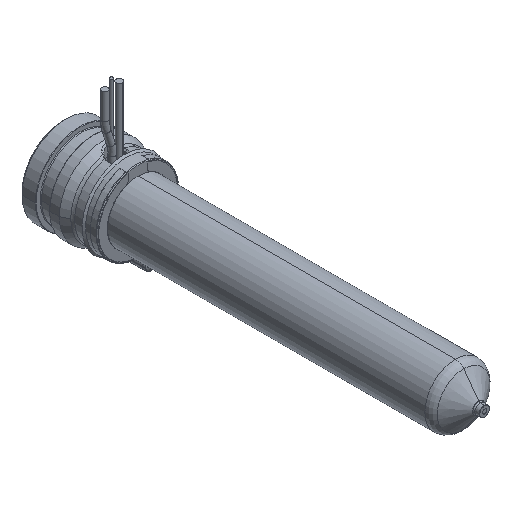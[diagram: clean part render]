
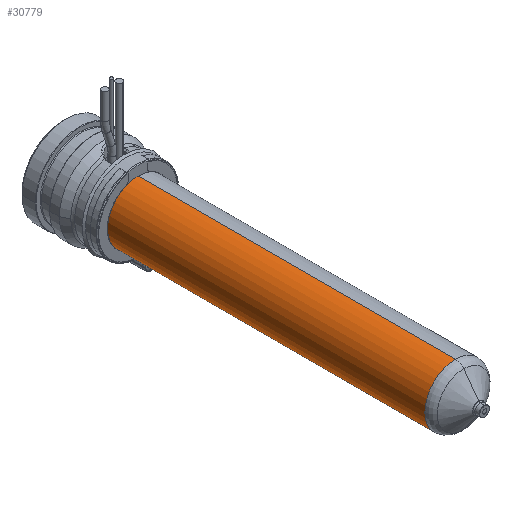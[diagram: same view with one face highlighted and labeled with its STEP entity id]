
A CAD part, isometric view. The second image highlights one B-rep face of the part: STEP entity #30779.
In plain terms, the highlighted cylindrical face has radius 9 mm (diameter 18 mm), a partial arc.
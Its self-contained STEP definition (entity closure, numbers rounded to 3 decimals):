
#30343=CARTESIAN_POINT('',(0.,-115.471,0.));
#30344=DIRECTION('',(0.,-1.,0.));
#30345=DIRECTION('',(0.,0.,1.));
#30346=AXIS2_PLACEMENT_3D('',#30343,#30344,#30345);
#30375=DIRECTION('',(0.,-1.,0.));
#30376=VECTOR('',#30375,93.471);
#30377=CARTESIAN_POINT('',(0.,-22.,9.));
#30378=LINE('',#30377,#30376);
#30390=DIRECTION('',(0.,-1.,0.));
#30391=VECTOR('',#30390,93.471);
#30392=CARTESIAN_POINT('',(0.,-22.,-9.));
#30393=LINE('',#30392,#30391);
#30397=CARTESIAN_POINT('',(0.,-22.,0.));
#30398=DIRECTION('',(0.,-1.,0.));
#30399=DIRECTION('',(0.,0.,1.));
#30400=AXIS2_PLACEMENT_3D('',#30397,#30398,#30399);
#30595=CARTESIAN_POINT('',(0.,-22.,9.));
#30596=CARTESIAN_POINT('',(0.,-115.471,9.));
#30597=VERTEX_POINT('',#30595);
#30598=VERTEX_POINT('',#30596);
#30607=CARTESIAN_POINT('',(0.,-22.,-9.));
#30608=CARTESIAN_POINT('',(0.,-115.471,-9.));
#30609=VERTEX_POINT('',#30607);
#30610=VERTEX_POINT('',#30608);
#30767=CARTESIAN_POINT('',(0.,-12.7,0.));
#30768=DIRECTION('',(0.,-1.,0.));
#30769=DIRECTION('',(0.,0.,1.));
#30770=AXIS2_PLACEMENT_3D('',#30767,#30768,#30769);
#30771=CYLINDRICAL_SURFACE('',#30770,9.);
#30772=ORIENTED_EDGE('',*,*,#30757,.T.);
#30773=ORIENTED_EDGE('',*,*,#30734,.T.);
#30774=ORIENTED_EDGE('',*,*,#30761,.F.);
#30776=ORIENTED_EDGE('',*,*,#30775,.F.);
#30777=EDGE_LOOP('',(#30772,#30773,#30774,#30776));
#30778=FACE_OUTER_BOUND('',#30777,.F.);
#30779=ADVANCED_FACE('',(#30778),#30771,.T.);
#30347=CIRCLE('',#30346,9.);
#30401=CIRCLE('',#30400,9.);
#30734=EDGE_CURVE('',#30598,#30610,#30347,.T.);
#30757=EDGE_CURVE('',#30597,#30598,#30378,.T.);
#30761=EDGE_CURVE('',#30609,#30610,#30393,.T.);
#30775=EDGE_CURVE('',#30597,#30609,#30401,.T.);
